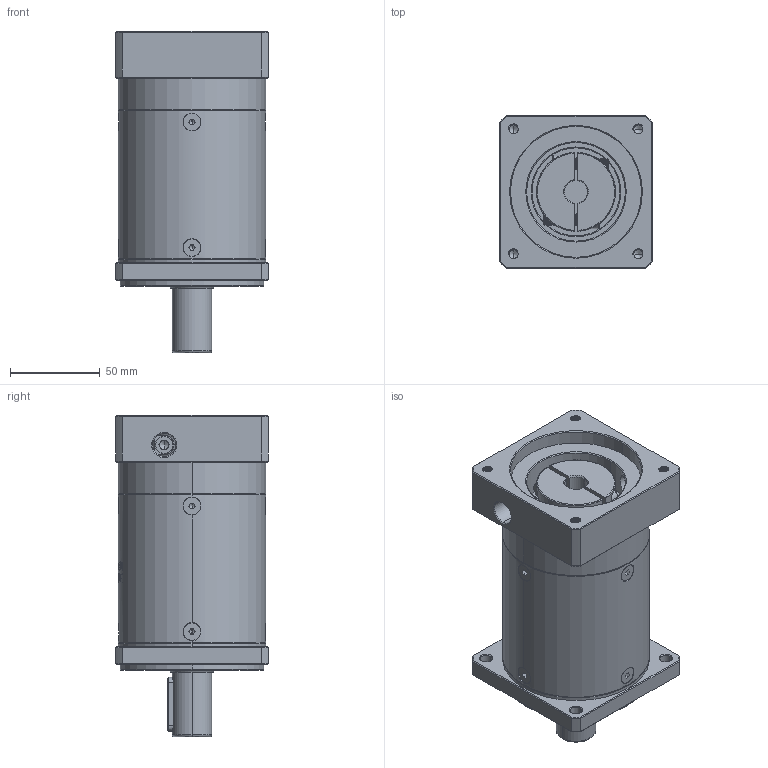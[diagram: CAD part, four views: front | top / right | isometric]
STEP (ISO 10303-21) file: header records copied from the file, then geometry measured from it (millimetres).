
FILE_DESCRIPTION (( 'STEP AP214' ), '1' );
FILE_NAME ('ZF080-D22-L3-P2-12.7-73-69.6X69.6-M6.step', '2023-08-19T05:32:57', ( '' ), ( '' ), 'SwSTEP 2.0', 'SolidWorks 2016', '' );
FILE_SCHEMA (( 'AUTOMOTIVE_DESIGN' ));
Length unit declared in the file: millimetre
Products named in the file (1): ZF080-D22-L3-P2-12.7-73-69.6X69.6-M6
Bounding box: 85 x 85 x 179 mm (x, y, z)
Volume: 753095.9 mm3; surface area: 99275.8 mm2
Topology: 13 solids, 13 shells, 2232 faces, 5845 edges, 3712 vertices
Faces by surface type: plane 1071, bspline 394, cylinder 390, cone 340, torus 37
Entity records: 119195 total; most frequent: CARTESIAN_POINT 44768, ORIENTED_EDGE 11630, DIRECTION 8627, EDGE_CURVE 5815, VERTEX_POINT 3712, VECTOR 3093, LINE 3093, AXIS2_PLACEMENT_3D 2767
